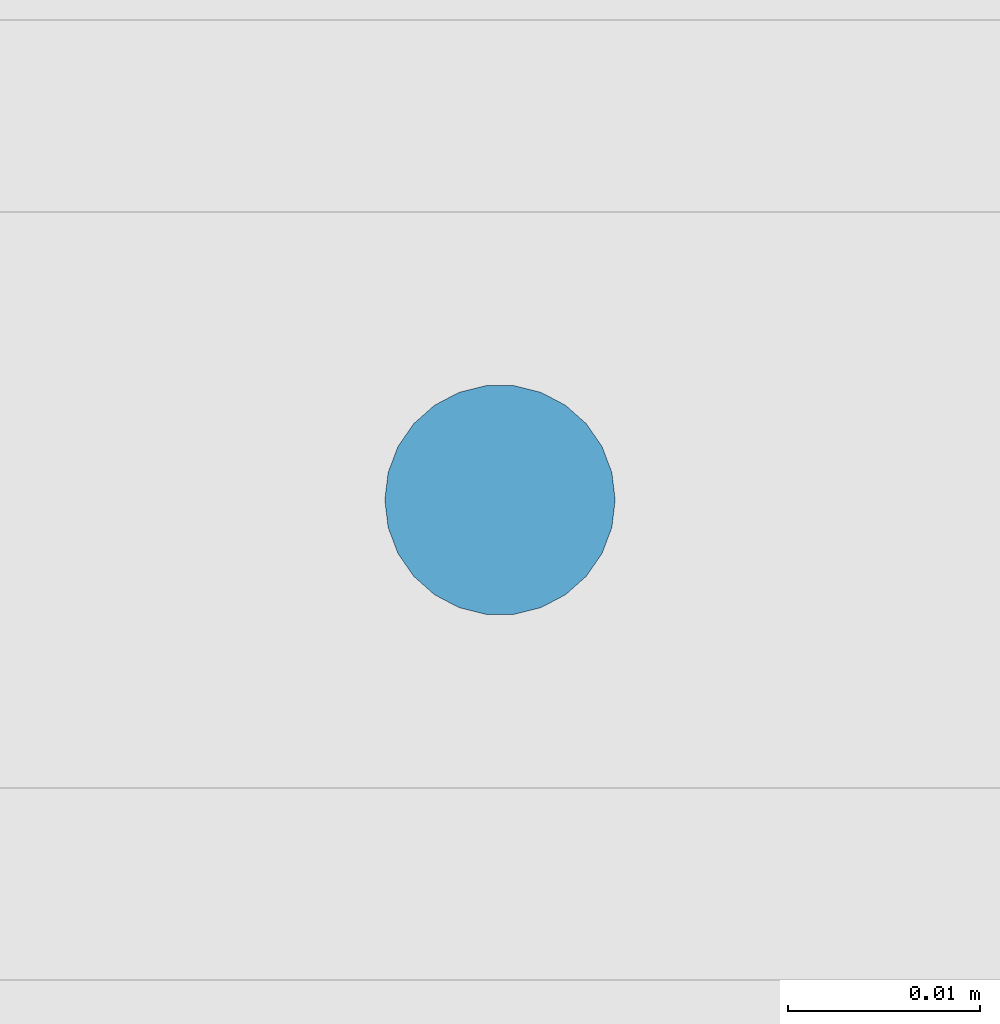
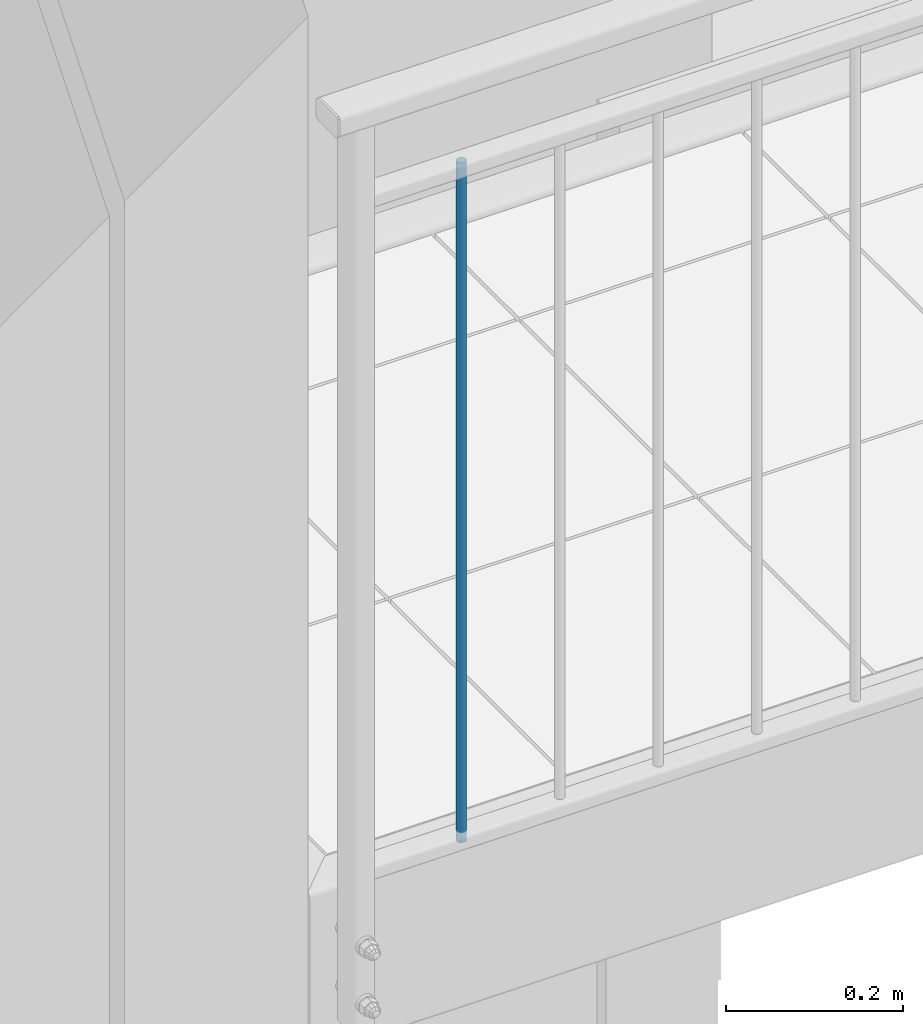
# One storey, part 17 of 162: 1 column.
"""IFC2X3 building model written with IfcOpenShell, lengths in millimetres."""

from ifc_helpers import new_model, entity, si_unit, converted_unit, frame, origin, origin_with_axes, origin_2d, place, context, project, spatial, circle, extrude, material, element, save


model = new_model("IFC2X3")

# Units and contexts
model_context = context("Model", 3, precision=1e-09, world=origin_with_axes())
ifc_project = project(units=[si_unit("LENGTHUNIT", "METRE", prefix="MILLI"), si_unit("AREAUNIT", "SQUARE_METRE"), si_unit("VOLUMEUNIT", "CUBIC_METRE"), converted_unit("PLANEANGLEUNIT", "DEGREE", entity("IfcPlaneAngleMeasure", 0.01745329), si_unit("PLANEANGLEUNIT", "RADIAN"), dimensions=[0, 0, 0, 0, 0, 0, 0])], contexts=[model_context])

# Site, building, storey
site_placement = place(None, origin_with_axes())
site = spatial("IfcSite", under=ifc_project, at=site_placement, Name="Hermannstra?e 1a, 60318 Frankfurt", CompositionType="ELEMENT")
building_placement = place(site_placement, origin_with_axes())
building = spatial("IfcBuilding", under=site, at=building_placement, Name="Struktur 1", CompositionType="ELEMENT")
storey_placement = place(building_placement, origin_with_axes())
storey = spatial("IfcBuildingStorey", under=building, at=storey_placement, Name="Default Storey", CompositionType="ELEMENT", Elevation=0.0)

# Column
ifc_material = material(Name="S235JR")
column_placement = place(None, frame((2741.166507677, 1515.609373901, 15261.999), z_axis=(0.0, 0.0, -1.0), x_axis=(1.0, 0.0, 0.0)))
element("IfcColumn", 1, at=column_placement, inside=storey, material=ifc_material, Name="-", ObjectType="-", context=model_context, shape_type="SweptSolid", body=[
    extrude(circle(Radius=6.0, at=origin_2d()), origin(), (0.0, 0.0, -1.0), 940.0),
])

save(model, "model.ifc")
